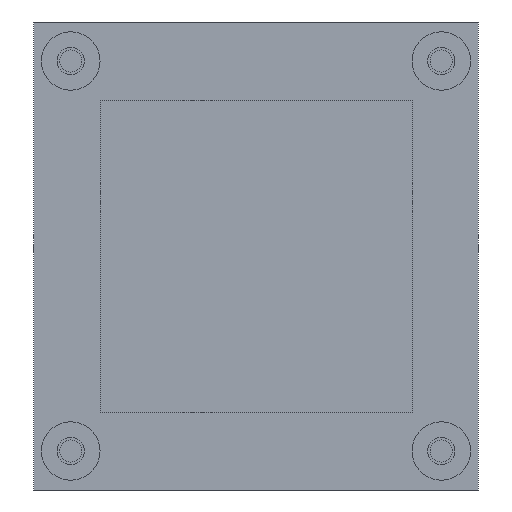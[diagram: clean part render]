
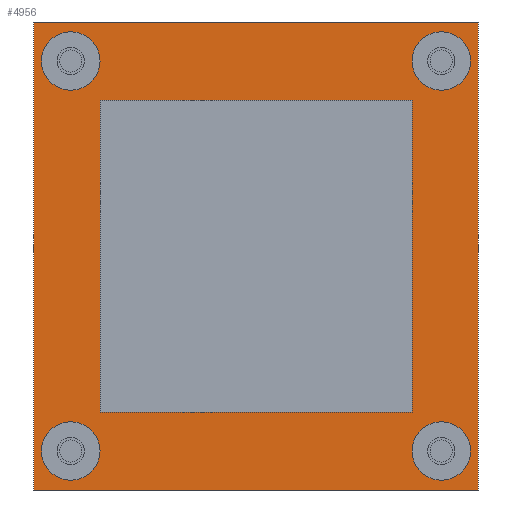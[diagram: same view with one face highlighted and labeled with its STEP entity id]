
A CAD part, front view. The second image highlights one B-rep face of the part: STEP entity #4956.
In plain terms, the highlighted planar face has unit normal (0, -1, 0).
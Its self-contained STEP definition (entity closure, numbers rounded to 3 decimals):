
#9 = CARTESIAN_POINT ( 'NONE',  ( -24.13, 0., 21.59 ) ) ;
#618 = CARTESIAN_POINT ( 'NONE',  ( -28.956, 0., -30.48 ) ) ;
#769 = DIRECTION ( 'NONE',  ( 0., -1., 0. ) ) ;
#1638 = ORIENTED_EDGE ( 'NONE', *, *, #11623, .F. ) ;
#1645 = FACE_BOUND ( 'NONE', #1831, .T. ) ;
#1831 = EDGE_LOOP ( 'NONE', ( #16401, #21226 ) ) ;
#1846 = DIRECTION ( 'NONE',  ( 0., -1., 0. ) ) ;
#2018 = EDGE_CURVE ( 'NONE', #15340, #14088, #16285, .T. ) ;
#2128 = ORIENTED_EDGE ( 'NONE', *, *, #23846, .F. ) ;
#2492 = EDGE_CURVE ( 'NONE', #7134, #8707, #14898, .T. ) ;
#2706 = VERTEX_POINT ( 'NONE', #24171 ) ;
#2815 = ORIENTED_EDGE ( 'NONE', *, *, #20392, .F. ) ;
#3036 = EDGE_CURVE ( 'NONE', #7217, #2706, #19094, .T. ) ;
#3045 = CARTESIAN_POINT ( 'NONE',  ( 28.956, 0., 30.48 ) ) ;
#3282 = CARTESIAN_POINT ( 'NONE',  ( 24.13, 0., -29.21 ) ) ;
#3464 = DIRECTION ( 'NONE',  ( 1., 0., 0. ) ) ;
#3993 = AXIS2_PLACEMENT_3D ( 'NONE', #5137, #6526, #19842 ) ;
#4433 = AXIS2_PLACEMENT_3D ( 'NONE', #8419, #20240, #18007 ) ;
#4471 = LINE ( 'NONE', #21767, #20151 ) ;
#4522 = EDGE_CURVE ( 'NONE', #2706, #7217, #18087, .T. ) ;
#4846 = LINE ( 'NONE', #8940, #4994 ) ;
#4956 = ADVANCED_FACE ( 'NONE', ( #18611, #22235, #22465, #1645, #22713 ), #5056, .F. ) ;
#4994 = VECTOR ( 'NONE', #24110, 1000. ) ;
#5056 = PLANE ( 'NONE',  #6451 ) ;
#5137 = CARTESIAN_POINT ( 'NONE',  ( 24.13, 0., 25.4 ) ) ;
#5265 = ORIENTED_EDGE ( 'NONE', *, *, #13328, .F. ) ;
#5858 = DIRECTION ( 'NONE',  ( 0., -1., 0. ) ) ;
#6045 = CARTESIAN_POINT ( 'NONE',  ( 24.13, 0., 29.21 ) ) ;
#6451 = AXIS2_PLACEMENT_3D ( 'NONE', #24443, #10802, #20374 ) ;
#6526 = DIRECTION ( 'NONE',  ( 0., -1., 0. ) ) ;
#6611 = CARTESIAN_POINT ( 'NONE',  ( -28.956, 0., 30.48 ) ) ;
#7134 = VERTEX_POINT ( 'NONE', #6611 ) ;
#7217 = VERTEX_POINT ( 'NONE', #18647 ) ;
#7233 = EDGE_CURVE ( 'NONE', #8707, #15760, #4846, .T. ) ;
#7324 = ORIENTED_EDGE ( 'NONE', *, *, #3036, .F. ) ;
#7379 = DIRECTION ( 'NONE',  ( 0., 0., -1. ) ) ;
#7419 = CIRCLE ( 'NONE', #8223, 3.81 ) ;
#8223 = AXIS2_PLACEMENT_3D ( 'NONE', #20338, #17089, #24674 ) ;
#8264 = AXIS2_PLACEMENT_3D ( 'NONE', #15283, #5858, #16934 ) ;
#8419 = CARTESIAN_POINT ( 'NONE',  ( -24.13, 0., -25.4 ) ) ;
#8452 = DIRECTION ( 'NONE',  ( 0., 0., 1. ) ) ;
#8707 = VERTEX_POINT ( 'NONE', #3045 ) ;
#8788 = VERTEX_POINT ( 'NONE', #3282 ) ;
#8940 = CARTESIAN_POINT ( 'NONE',  ( 28.956, 0., -30.48 ) ) ;
#9493 = DIRECTION ( 'NONE',  ( 0., -1., 0. ) ) ;
#9732 = CARTESIAN_POINT ( 'NONE',  ( -24.13, 0., 25.4 ) ) ;
#9839 = CIRCLE ( 'NONE', #18285, 3.81 ) ;
#9922 = EDGE_CURVE ( 'NONE', #21613, #8788, #7419, .T. ) ;
#10358 = AXIS2_PLACEMENT_3D ( 'NONE', #9732, #1846, #21052 ) ;
#10498 = LINE ( 'NONE', #618, #17925 ) ;
#10802 = DIRECTION ( 'NONE',  ( 0., 1., 0. ) ) ;
#10865 = AXIS2_PLACEMENT_3D ( 'NONE', #23218, #769, #18015 ) ;
#11138 = CARTESIAN_POINT ( 'NONE',  ( -24.13, 0., 25.4 ) ) ;
#11190 = EDGE_CURVE ( 'NONE', #8788, #21613, #22495, .T. ) ;
#11192 = VERTEX_POINT ( 'NONE', #6045 ) ;
#11623 = EDGE_CURVE ( 'NONE', #11192, #15050, #22407, .T. ) ;
#11784 = ORIENTED_EDGE ( 'NONE', *, *, #13627, .F. ) ;
#12236 = CARTESIAN_POINT ( 'NONE',  ( 28.956, 0., -30.48 ) ) ;
#13019 = CARTESIAN_POINT ( 'NONE',  ( -28.956, 0., 30.48 ) ) ;
#13328 = EDGE_CURVE ( 'NONE', #15050, #11192, #9839, .T. ) ;
#13627 = EDGE_CURVE ( 'NONE', #15760, #21347, #10498, .T. ) ;
#13981 = DIRECTION ( 'NONE',  ( 0., -1., 0. ) ) ;
#14009 = CARTESIAN_POINT ( 'NONE',  ( 24.13, 0., -21.59 ) ) ;
#14088 = VERTEX_POINT ( 'NONE', #9 ) ;
#14891 = EDGE_LOOP ( 'NONE', ( #19848, #7324 ) ) ;
#14898 = LINE ( 'NONE', #13019, #15108 ) ;
#15050 = VERTEX_POINT ( 'NONE', #17989 ) ;
#15108 = VECTOR ( 'NONE', #3464, 1000. ) ;
#15283 = CARTESIAN_POINT ( 'NONE',  ( -24.13, 0., -25.4 ) ) ;
#15340 = VERTEX_POINT ( 'NONE', #20321 ) ;
#15760 = VERTEX_POINT ( 'NONE', #12236 ) ;
#15909 = EDGE_LOOP ( 'NONE', ( #2128, #11784, #16196, #22872 ) ) ;
#16196 = ORIENTED_EDGE ( 'NONE', *, *, #7233, .F. ) ;
#16285 = CIRCLE ( 'NONE', #19880, 3.81 ) ;
#16401 = ORIENTED_EDGE ( 'NONE', *, *, #11190, .F. ) ;
#16934 = DIRECTION ( 'NONE',  ( 0., 0., -1. ) ) ;
#17089 = DIRECTION ( 'NONE',  ( 0., -1., 0. ) ) ;
#17925 = VECTOR ( 'NONE', #19709, 1000. ) ;
#17989 = CARTESIAN_POINT ( 'NONE',  ( 24.13, 0., 21.59 ) ) ;
#18007 = DIRECTION ( 'NONE',  ( 0., 0., -1. ) ) ;
#18015 = DIRECTION ( 'NONE',  ( 0., 0., -1. ) ) ;
#18056 = CARTESIAN_POINT ( 'NONE',  ( -28.956, 0., -30.48 ) ) ;
#18087 = CIRCLE ( 'NONE', #4433, 3.81 ) ;
#18285 = AXIS2_PLACEMENT_3D ( 'NONE', #20110, #13981, #21614 ) ;
#18611 = FACE_BOUND ( 'NONE', #20267, .T. ) ;
#18647 = CARTESIAN_POINT ( 'NONE',  ( -24.13, 0., -21.59 ) ) ;
#19094 = CIRCLE ( 'NONE', #8264, 3.81 ) ;
#19301 = EDGE_LOOP ( 'NONE', ( #5265, #1638 ) ) ;
#19709 = DIRECTION ( 'NONE',  ( -1., 0., 0. ) ) ;
#19842 = DIRECTION ( 'NONE',  ( 0., 0., -1. ) ) ;
#19848 = ORIENTED_EDGE ( 'NONE', *, *, #4522, .F. ) ;
#19880 = AXIS2_PLACEMENT_3D ( 'NONE', #11138, #9493, #7379 ) ;
#20110 = CARTESIAN_POINT ( 'NONE',  ( 24.13, 0., 25.4 ) ) ;
#20151 = VECTOR ( 'NONE', #8452, 1000. ) ;
#20240 = DIRECTION ( 'NONE',  ( 0., -1., 0. ) ) ;
#20267 = EDGE_LOOP ( 'NONE', ( #2815, #24740 ) ) ;
#20321 = CARTESIAN_POINT ( 'NONE',  ( -24.13, 0., 29.21 ) ) ;
#20338 = CARTESIAN_POINT ( 'NONE',  ( 24.13, 0., -25.4 ) ) ;
#20374 = DIRECTION ( 'NONE',  ( 1., 0., 0. ) ) ;
#20392 = EDGE_CURVE ( 'NONE', #14088, #15340, #23182, .T. ) ;
#21052 = DIRECTION ( 'NONE',  ( 0., 0., -1. ) ) ;
#21226 = ORIENTED_EDGE ( 'NONE', *, *, #9922, .F. ) ;
#21347 = VERTEX_POINT ( 'NONE', #18056 ) ;
#21613 = VERTEX_POINT ( 'NONE', #14009 ) ;
#21614 = DIRECTION ( 'NONE',  ( 0., 0., -1. ) ) ;
#21767 = CARTESIAN_POINT ( 'NONE',  ( -28.956, 0., -30.48 ) ) ;
#22235 = FACE_BOUND ( 'NONE', #19301, .T. ) ;
#22407 = CIRCLE ( 'NONE', #3993, 3.81 ) ;
#22465 = FACE_BOUND ( 'NONE', #14891, .T. ) ;
#22495 = CIRCLE ( 'NONE', #10865, 3.81 ) ;
#22713 = FACE_OUTER_BOUND ( 'NONE', #15909, .T. ) ;
#22872 = ORIENTED_EDGE ( 'NONE', *, *, #2492, .F. ) ;
#23182 = CIRCLE ( 'NONE', #10358, 3.81 ) ;
#23218 = CARTESIAN_POINT ( 'NONE',  ( 24.13, 0., -25.4 ) ) ;
#23846 = EDGE_CURVE ( 'NONE', #21347, #7134, #4471, .T. ) ;
#24110 = DIRECTION ( 'NONE',  ( 0., 0., -1. ) ) ;
#24171 = CARTESIAN_POINT ( 'NONE',  ( -24.13, 0., -29.21 ) ) ;
#24443 = CARTESIAN_POINT ( 'NONE',  ( -28.956, 0., 30.48 ) ) ;
#24674 = DIRECTION ( 'NONE',  ( 0., 0., -1. ) ) ;
#24740 = ORIENTED_EDGE ( 'NONE', *, *, #2018, .F. ) ;
